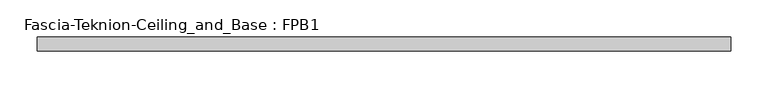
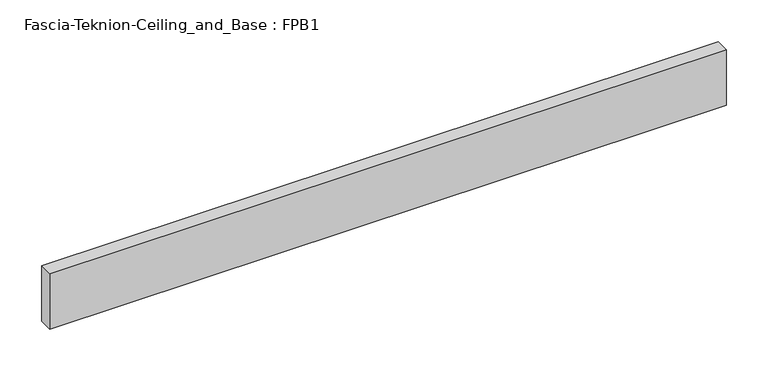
"""IFC4 building model written with IfcOpenShell, lengths in millimetres: proxy geometry, Fascia-Teknion-Ceiling_and_Base : FPB1."""

from ifc_helpers import new_model, si_unit, origin, origin_with_axes, place, context, project, spatial, polyline, outline, extrude, source, transform, mapped, element, save


def fascia_teknion_ceiling_and_base_fpb1_22c6959f(model_context):
    return source(origin(), model_context, "Body", "SweptSolid", [
        extrude(outline(polyline([(467.9900391, 0.0), (467.9900391, -19.05), (-467.9900391, -19.05), (-467.9900391, 0.0), (467.9900391, 0.0)])), origin_with_axes(), (0.0, 0.0, 1.0), 81.28),
    ])


if __name__ == "__main__":
    model = new_model("IFC4")
    model_context = context("Model", 3, world=origin())
    ifc_project = project(units=[si_unit("LENGTHUNIT", "METRE", prefix="MILLI")], contexts=[model_context])
    site = spatial("IfcSite", under=ifc_project)
    building = spatial("IfcBuilding", under=site)
    placement = place(None, origin())
    fascia_teknion_ceiling_and_base_fpb1_shape = fascia_teknion_ceiling_and_base_fpb1_22c6959f(model_context)
    element("IfcBuildingElementProxy", 1, Name="Fascia-Teknion-Ceiling_and_Base : FPB1", ObjectType="Fascia-Teknion-Ceiling_and_Base : FPB1", at=placement, inside=building, context=model_context, shape_type="MappedRepresentation", body=[
        mapped(fascia_teknion_ceiling_and_base_fpb1_shape, transform((0.0, 0.0, 0.0), x_axis=(1.0, 0.0, 0.0), y_axis=(0.0, 1.0, 0.0), z_axis=(0.0, 0.0, 1.0))),
    ])
    save(model, "model.ifc")
